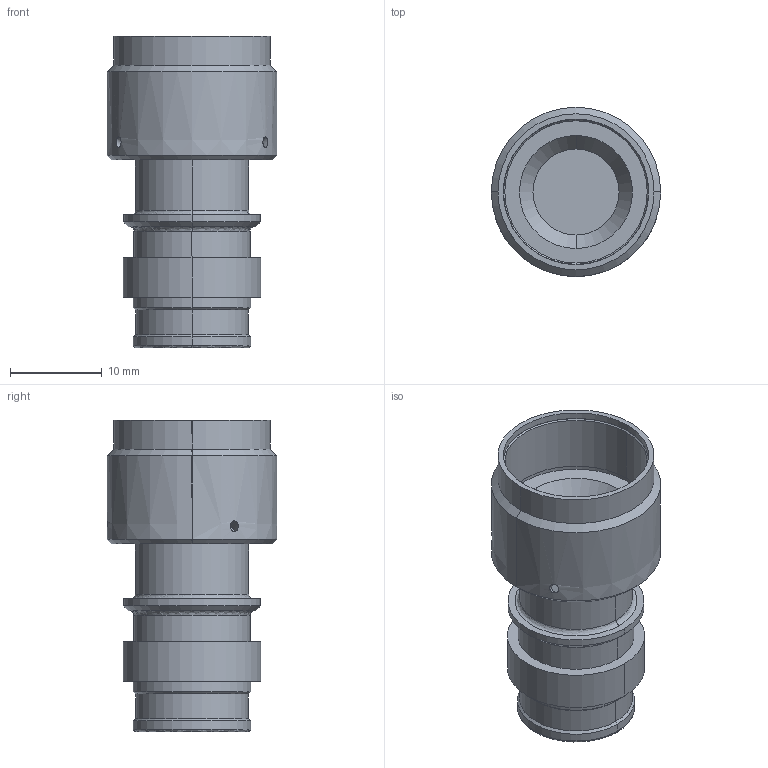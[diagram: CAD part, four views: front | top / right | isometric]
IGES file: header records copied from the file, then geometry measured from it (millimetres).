
Start section:  PTC IGES file: c-f52814-000-o-3d.igs
Global section: file name: c-f52814-000-o-3d.igs; native system: Creo Parametric by Parametric Technology Corporation; preprocessor: 2014090; author: workeradm; organization: Unknown; units: millimetre
Bounding box: 18.5 x 18.5 x 34 mm (x, y, z)
Surface area: 2773.3 mm2 (no closed solid volume)
Topology: 0 solids, 0 shells, 71 faces, 280 edges, 280 vertices
Faces by surface type: revolution 56, bspline 15
